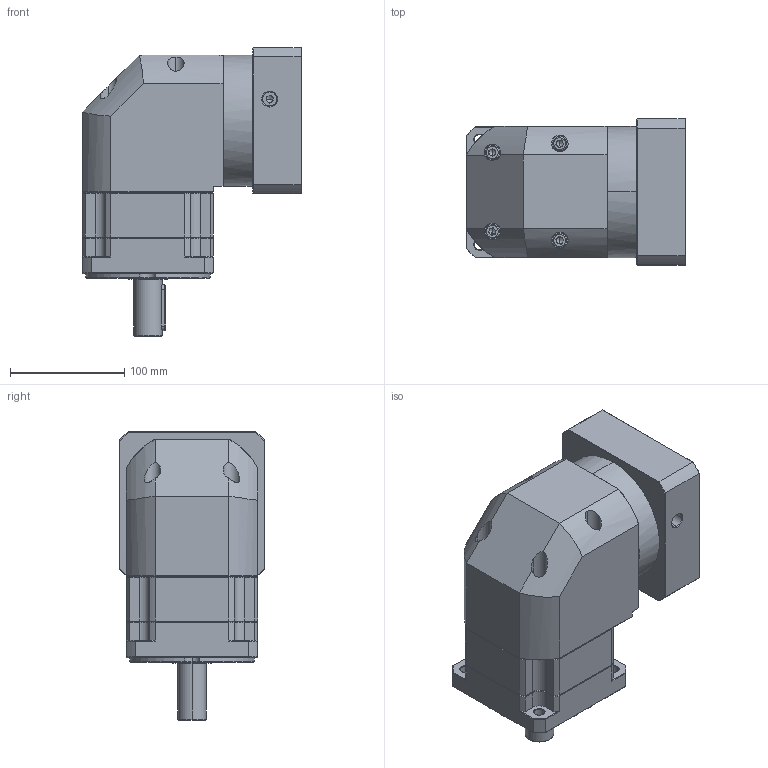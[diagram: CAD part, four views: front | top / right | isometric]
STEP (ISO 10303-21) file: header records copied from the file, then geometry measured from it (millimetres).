
FILE_DESCRIPTION (( 'STEP AP214' ), '1' );
FILE_NAME ('ZBR115A-D25-L1-P2-19-110-145-M8.step', '2023-08-26T12:30:07', ( '' ), ( '' ), 'SwSTEP 2.0', 'SolidWorks 2016', '' );
FILE_SCHEMA (( 'AUTOMOTIVE_DESIGN' ));
Length unit declared in the file: millimetre
Products named in the file (1): ZBR115A-D25-L1-P2-19-110-145-M8
Bounding box: 192.4 x 128 x 253 mm (x, y, z)
Volume: 3042865.9 mm3; surface area: 253885.9 mm2
Topology: 6 solids, 6 shells, 2379 faces, 6224 edges, 3949 vertices
Faces by surface type: plane 1139, cylinder 439, bspline 425, cone 368, torus 8
Entity records: 127949 total; most frequent: CARTESIAN_POINT 46915, ORIENTED_EDGE 12388, DIRECTION 9761, EDGE_CURVE 6194, VECTOR 3989, LINE 3989, VERTEX_POINT 3949, AXIS2_PLACEMENT_3D 2886
